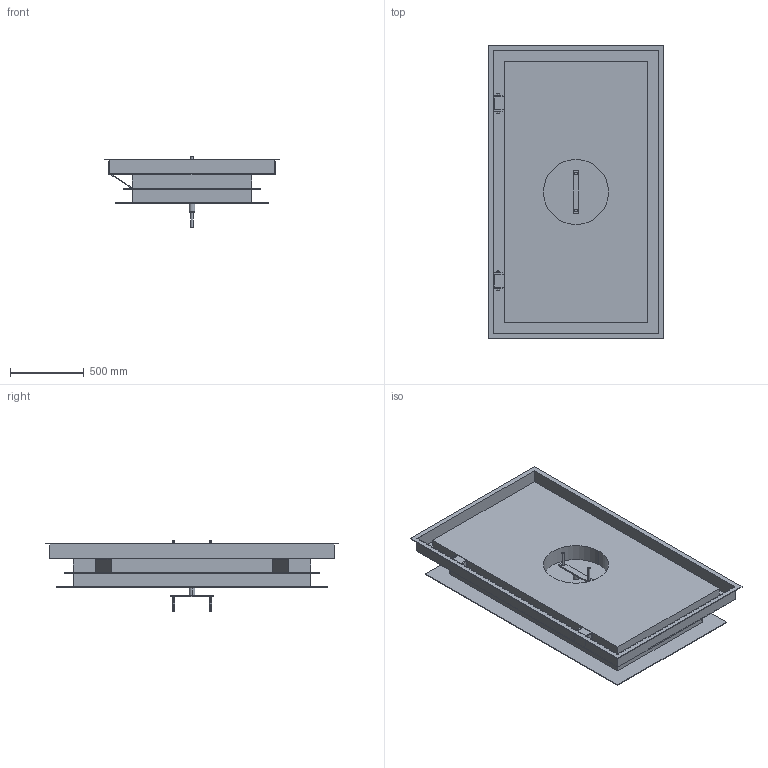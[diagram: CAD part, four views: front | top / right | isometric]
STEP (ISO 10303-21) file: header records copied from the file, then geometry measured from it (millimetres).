
FILE_DESCRIPTION((''),'2;1');
FILE_NAME('52033712','2023-02-24T11:39:46',('ka'),('HUBER SE'),'CREO PARAMETRIC BY PTC INC, 2022162','CREO PARAMETRIC BY PTC INC, 2022162','');
FILE_SCHEMA(('AUTOMOTIVE_DESIGN { 1 0 10303 214 1 1 1 1 }'));
Length unit declared in the file: millimetre
Products named in the file (1): 52033712
Bounding box: 1190 x 1990 x 480 mm (x, y, z)
Volume: 266239077.9 mm3; surface area: 10719830.1 mm2
Topology: 3 solids, 3 shells, 134 faces, 326 edges, 212 vertices
Faces by surface type: plane 112, cylinder 22
Entity records: 5018 total; most frequent: CARTESIAN_POINT 674, ORIENTED_EDGE 652, DIRECTION 638, EDGE_CURVE 326, VECTOR 282, LINE 282, VERTEX_POINT 212, AXIS2_PLACEMENT_3D 178
